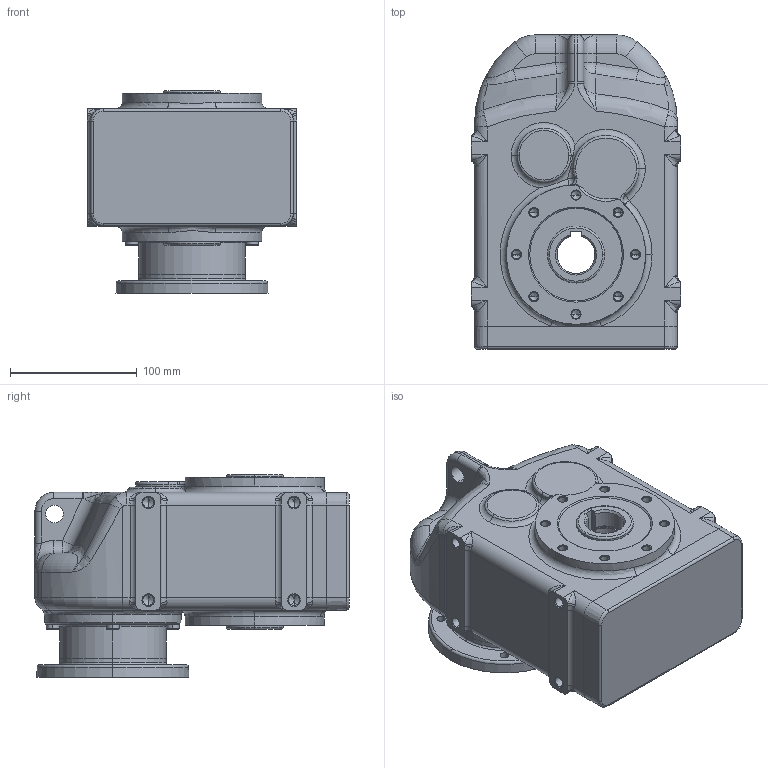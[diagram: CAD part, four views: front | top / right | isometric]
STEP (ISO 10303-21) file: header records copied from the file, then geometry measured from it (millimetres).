
FILE_DESCRIPTION (( 'STEP AP214' ), '1' );
FILE_NAME ('tnc12-f100-ap80.STEP', '2009-09-25T08:26:59', ( '' ), ( '' ), 'SwSTEP 2.0', 'SolidWorks 2003240', '' );
FILE_SCHEMA (( 'AUTOMOTIVE_DESIGN' ));
Length unit declared in the file: millimetre
Products named in the file (4): Pøíruba MRT80 kulatá _80-100-120; Skøíò TNC1_Skøíò TNC12 AP80; tnc12-f100-ap80; D6912_Šroub DIN 6912 - M6x20
Assembly tree (8 placements, depth 2):
  tnc12-f100-ap80
    D6912_Šroub DIN 6912 - M6x20  x6
    Skøíò TNC1_Skøíò TNC12 AP80
    Pøíruba MRT80 kulatá _80-100-120
Bounding box: 165 x 248 x 160 mm (x, y, z)
Volume: 3773668.2 mm3; surface area: 226115 mm2
Topology: 8 solids, 8 shells, 856 faces, 1934 edges, 1061 vertices
Faces by surface type: cylinder 250, cone 241, plane 163, torus 117, bspline 80, sphere 5
Entity records: 81106 total; most frequent: CARTESIAN_POINT 65116, DIRECTION 3433, ORIENTED_EDGE 3040, EDGE_CURVE 1520, AXIS2_PLACEMENT_3D 1454, VERTEX_POINT 906, CIRCLE 852, EDGE_LOOP 748
